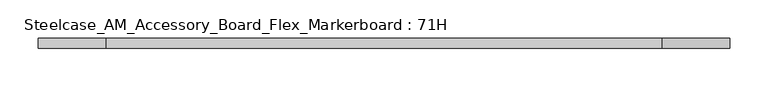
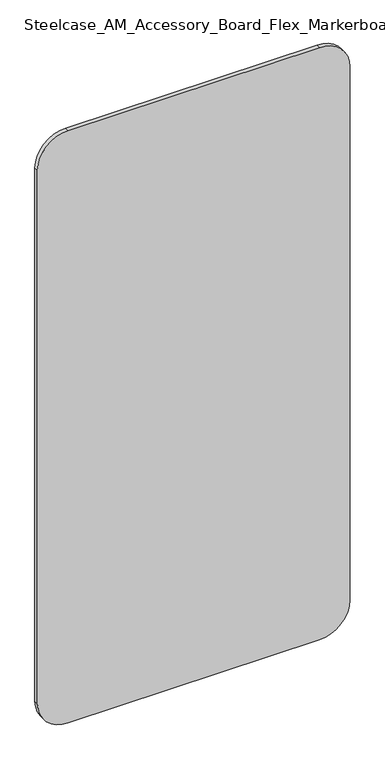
"""IFC4 building model written with IfcOpenShell, lengths in millimetres: furniture geometry, Steelcase_AM_Accessory_Board_Flex_Markerboard : 71H."""

import ifcopenshell
import ifcopenshell.guid

model = None  # the IFC model being written
_history = None  # IfcOwnerHistory: only IFC2X3 demands one
_inside = {}  # id of a spatial element -> (the spatial element, [elements in it])
_under = {}  # id of a project, library or spatial element -> (it, [spatial elements below it])
_declared = {}  # id of a project -> (the project, [libraries it declares])
_typed = {}  # id of a type object -> (the type object, [elements of that type])
_made_of = {}  # id of a material, layer set ... -> (it, [elements and type objects made of it])


def new_model(schema):
    """Start an empty IFC model of exactly this schema.

    Asked for "IFC4X3", IfcOpenShell would pick the latest addendum, in which some entities
    have other attributes; the version numbers below select the first issue.
    IFC2X3 requires an IfcOwnerHistory on every rooted entity: one is made here for all.
    """
    global model, _history
    if schema == "IFC4X3":
        model = ifcopenshell.file(schema_version=(4, 3, 0, 0))
    else:
        model = ifcopenshell.file(schema=schema)
    _inside.clear()
    _under.clear()
    _declared.clear()
    _typed.clear()
    _made_of.clear()
    _history = None
    if model.schema == "IFC2X3":
        org = make("IfcOrganization", Name="unknown")
        user = make(
            "IfcPersonAndOrganization",
            ThePerson=make("IfcPerson", FamilyName="unknown"),
            TheOrganization=org,
        )
        app = make(
            "IfcApplication",
            ApplicationDeveloper=org,
            Version="unknown",
            ApplicationFullName="unknown",
            ApplicationIdentifier="unknown",
        )
        _history = make(
            "IfcOwnerHistory",
            OwningUser=user,
            OwningApplication=app,
            ChangeAction="ADDED",
            CreationDate=0,
        )
    return model


def make(cls, **values):
    """One entity of the class cls with the attributes given. An attribute that is None is left unset."""
    return model.create_entity(
        cls, **{name: value for name, value in values.items() if value is not None}
    )


def rooted(cls, **values):
    """An entity with a GlobalId (a new one), such as an element, a storey or a relation."""
    return make(cls, GlobalId=ifcopenshell.guid.new(), OwnerHistory=_history, **values)


def si_unit(unit_type, name, prefix=None):
    """IfcSIUnit, for example si_unit("LENGTHUNIT", "METRE", prefix="MILLI")."""
    return make("IfcSIUnit", UnitType=unit_type, Prefix=prefix, Name=name)


def assignment(units):
    """IfcUnitAssignment: the units of a project."""
    return None if units is None else make("IfcUnitAssignment", Units=units)


def point(xyz):
    """IfcCartesianPoint."""
    return None if xyz is None else make("IfcCartesianPoint", Coordinates=xyz)


def direction(xyz):
    """IfcDirection."""
    return None if xyz is None else make("IfcDirection", DirectionRatios=xyz)


def frame(location, z_axis=None, x_axis=None):
    """IfcAxis2Placement3D, a coordinate frame: its origin and axes. An axis left out is left unset."""
    return make(
        "IfcAxis2Placement3D",
        Location=point(location),
        Axis=direction(z_axis),
        RefDirection=direction(x_axis),
    )


def frame_2d(location, x_axis=None):
    """IfcAxis2Placement2D, a coordinate frame in the plane: its origin and x axis."""
    return make(
        "IfcAxis2Placement2D", Location=point(location), RefDirection=direction(x_axis)
    )


def origin():
    """The frame at (0, 0, 0) with its axes left unset."""
    return frame((0.0, 0.0, 0.0))


def place(relative_to, where):
    """IfcLocalPlacement: puts the frame where relative to a parent placement (None: the world)."""
    return make(
        "IfcLocalPlacement", PlacementRelTo=relative_to, RelativePlacement=where
    )


def context(
    kind, dimensions, precision=None, world=None, true_north=None, identifier=None
):
    """IfcGeometricRepresentationContext, for example the 3D "Model" context."""
    return make(
        "IfcGeometricRepresentationContext",
        ContextIdentifier=identifier,
        ContextType=kind,
        CoordinateSpaceDimension=dimensions,
        Precision=precision,
        WorldCoordinateSystem=world,
        TrueNorth=true_north,
    )


def project(units=None, contexts=None):
    """IfcProject with its units and contexts."""
    return rooted(
        "IfcProject",
        Name="project",
        RepresentationContexts=contexts,
        UnitsInContext=assignment(units),
    )


def spatial(cls, under=None, at=None, **own):
    """A site, building, storey or space (cls), placed at a placement, below another one or the project."""
    s = rooted(cls, ObjectPlacement=at, **own)
    if under is not None:
        _under.setdefault(under.id(), (under, []))[1].append(s)
    return s


def polyline(points):
    """IfcPolyline through the points."""
    return make("IfcPolyline", Points=[point(p) for p in points])


def circle_curve(where, radius):
    """IfcCircle in the frame where."""
    return make("IfcCircle", Position=where, Radius=radius)


def trimmed(basis, trim1, trim2, sense, master):
    """IfcTrimmedCurve: the piece of a basis curve between two trims."""
    return make(
        "IfcTrimmedCurve",
        BasisCurve=basis,
        Trim1=trim1,
        Trim2=trim2,
        SenseAgreement=sense,
        MasterRepresentation=master,
    )


def segment(curve, same_sense, transition):
    """IfcCompositeCurveSegment."""
    return make(
        "IfcCompositeCurveSegment",
        Transition=transition,
        SameSense=same_sense,
        ParentCurve=curve,
    )


def composite_curve(segments, self_intersect=None):
    """IfcCompositeCurve: segments joined end to end."""
    return make("IfcCompositeCurve", Segments=segments, SelfIntersect=self_intersect)


def outline(outer, holes=None, kind="AREA"):
    """IfcArbitraryClosedProfileDef: a profile drawn as a closed curve; with holes, ...WithVoids."""
    if holes is None:
        return make("IfcArbitraryClosedProfileDef", ProfileType=kind, OuterCurve=outer)
    return make(
        "IfcArbitraryProfileDefWithVoids",
        ProfileType=kind,
        OuterCurve=outer,
        InnerCurves=holes,
    )


def extrude(swept, where, along, depth):
    """IfcExtrudedAreaSolid: the profile swept, set in the frame where, extruded along a direction by depth."""
    return make(
        "IfcExtrudedAreaSolid",
        SweptArea=swept,
        Position=where,
        ExtrudedDirection=direction(along),
        Depth=depth,
    )


def shape(context_of_items, identifier, shape_type, items):
    """IfcShapeRepresentation: the items that make up one representation, for example the "Body"."""
    return make(
        "IfcShapeRepresentation",
        ContextOfItems=context_of_items,
        RepresentationIdentifier=identifier,
        RepresentationType=shape_type,
        Items=items,
    )


def source(mapping_origin, context_of_items, identifier, shape_type, items):
    """IfcRepresentationMap: a shape defined once, which mapped items show again and again."""
    return make(
        "IfcRepresentationMap",
        MappingOrigin=mapping_origin,
        MappedRepresentation=shape(context_of_items, identifier, shape_type, items),
    )


def transform(
    local_origin,
    x_axis=None,
    y_axis=None,
    z_axis=None,
    scale=None,
    scale2=None,
    scale3=None,
    uniform=True,
):
    """IfcCartesianTransformationOperator3D, or its non-uniform kind. x_axis, y_axis, z_axis: its Axis1, 2, 3."""
    if uniform:
        return make(
            "IfcCartesianTransformationOperator3D",
            Axis1=direction(x_axis),
            Axis2=direction(y_axis),
            LocalOrigin=point(local_origin),
            Scale=scale,
            Axis3=direction(z_axis),
        )
    return make(
        "IfcCartesianTransformationOperator3DnonUniform",
        Axis1=direction(x_axis),
        Axis2=direction(y_axis),
        LocalOrigin=point(local_origin),
        Scale=scale,
        Axis3=direction(z_axis),
        Scale2=scale2,
        Scale3=scale3,
    )


def mapped(mapping_source, mapping_target):
    """IfcMappedItem: shows the shape of a source again, moved by a transform."""
    return make(
        "IfcMappedItem", MappingSource=mapping_source, MappingTarget=mapping_target
    )


def made_of(thing, what):
    """Note that an element or type object is made of a material, layer set ...; save() writes the relation."""
    if what is not None:
        _made_of.setdefault(what.id(), (what, []))[1].append(thing)
    return thing


def element(
    cls,
    number,
    at=None,
    inside=None,
    cuts=None,
    type_object=None,
    material=None,
    context=None,
    identifier="Body",
    shape_type=None,
    held_by="IfcProductDefinitionShape",
    body=None,
    shapes=None,
    **own,
):
    """One element of the class cls, such as IfcWall. Its Tag is "e" and its number.

    at: its placement. inside: the storey or other place that contains it. cuts: it is an
    opening in that element (IfcRelVoidsElement). A single representation is given by context,
    identifier, shape_type and body (its items); several are given by shapes. held_by: the class
    of the entity that holds the representations. save() writes the other relations.
    """
    e = rooted(cls, Tag="e%d" % number, ObjectPlacement=at, **own)
    if body is not None:
        shapes = [shape(context, identifier, shape_type, body)]
    if shapes is not None:
        e.Representation = make(held_by, Representations=shapes)
    if inside is not None:
        _inside.setdefault(inside.id(), (inside, []))[1].append(e)
    if cuts is not None:
        rooted(
            "IfcRelVoidsElement", RelatingBuildingElement=cuts, RelatedOpeningElement=e
        )
    if type_object is not None:
        _typed.setdefault(type_object.id(), (type_object, []))[1].append(e)
    return made_of(e, material)


def aggregate(whole, parts):
    """IfcRelAggregates: a whole, such as a stair, and the parts it consists of."""
    return rooted("IfcRelAggregates", RelatingObject=whole, RelatedObjects=parts)


def save(model, path):
    """Write the relations noted so far, then the file.

    IfcRelAggregates (storeys below a building ...), IfcRelContainedInSpatialStructure (elements
    in a storey), IfcRelDefinesByType, IfcRelAssociatesMaterial and IfcRelDeclares: one each for
    every whole, place, type object, material and project.
    """
    for whole, parts in _under.values():
        aggregate(whole, parts)
    for where, things in _inside.values():
        rooted(
            "IfcRelContainedInSpatialStructure",
            RelatedElements=things,
            RelatingStructure=where,
        )
    for kind, things in _typed.values():
        rooted("IfcRelDefinesByType", RelatedObjects=things, RelatingType=kind)
    for what, things in _made_of.values():
        rooted("IfcRelAssociatesMaterial", RelatedObjects=things, RelatingMaterial=what)
    for by, libraries in _declared.values():
        rooted("IfcRelDeclares", RelatingContext=by, RelatedDefinitions=libraries)
    model.write(path)


def steelcase_am_accessory_board_flex_markerboard_71h_e8a6860e(model_context):
    return source(origin(), model_context, "Body", "SweptSolid", [
        extrude(outline(composite_curve([segment(polyline([(1803.4, 812.8), (1803.4, 88.9)]), True, "CONTINUOUS"), segment(trimmed(circle_curve(frame_2d((1714.5, 88.9)), 88.9), [point((1803.4, 88.9))], [point((1714.5, 0.0))], False, "CARTESIAN"), True, "CONTINUOUS"), segment(polyline([(1714.5, 0.0), (88.9, 0.0)]), True, "CONTINUOUS"), segment(trimmed(circle_curve(frame_2d((88.9, 88.9)), 88.9), [point((88.9, 0.0))], [point((0.0, 88.9))], False, "CARTESIAN"), True, "CONTINUOUS"), segment(polyline([(0.0, 88.9), (0.0, 812.8)]), True, "CONTINUOUS"), segment(trimmed(circle_curve(frame_2d((88.9, 812.8)), 88.9), [point((0.0, 812.8))], [point((88.9, 901.7))], False, "CARTESIAN"), True, "CONTINUOUS"), segment(polyline([(88.9, 901.7), (1714.5, 901.7)]), True, "CONTINUOUS"), segment(trimmed(circle_curve(frame_2d((1714.5, 812.8)), 88.9), [point((1714.5, 901.7))], [point((1803.4, 812.8))], False, "CARTESIAN"), True, "CONTINUOUS")], self_intersect=False)), frame((0.0, -12.6934822, 0.0), z_axis=(0.0, 1.0, 0.0), x_axis=(0.0, 0.0, 1.0)), (0.0, 0.0, 1.0), 12.6934822),
    ])


if __name__ == "__main__":
    model = new_model("IFC4")
    model_context = context("Model", 3, world=origin())
    ifc_project = project(units=[si_unit("LENGTHUNIT", "METRE", prefix="MILLI")], contexts=[model_context])
    site = spatial("IfcSite", under=ifc_project)
    building = spatial("IfcBuilding", under=site)
    placement = place(None, origin())
    steelcase_am_accessory_board_flex_markerboard_71h_shape = steelcase_am_accessory_board_flex_markerboard_71h_e8a6860e(model_context)
    element("IfcFurniture", 1, ObjectType="Steelcase_AM_Accessory_Board_Flex_Markerboard : 71H", at=placement, inside=building, context=model_context, shape_type="MappedRepresentation", body=[
        mapped(steelcase_am_accessory_board_flex_markerboard_71h_shape, transform((0.0, 0.0, 0.0), x_axis=(1.0, 0.0, 0.0), y_axis=(0.0, 1.0, 0.0), z_axis=(0.0, 0.0, 1.0))),
    ])
    save(model, "model.ifc")
